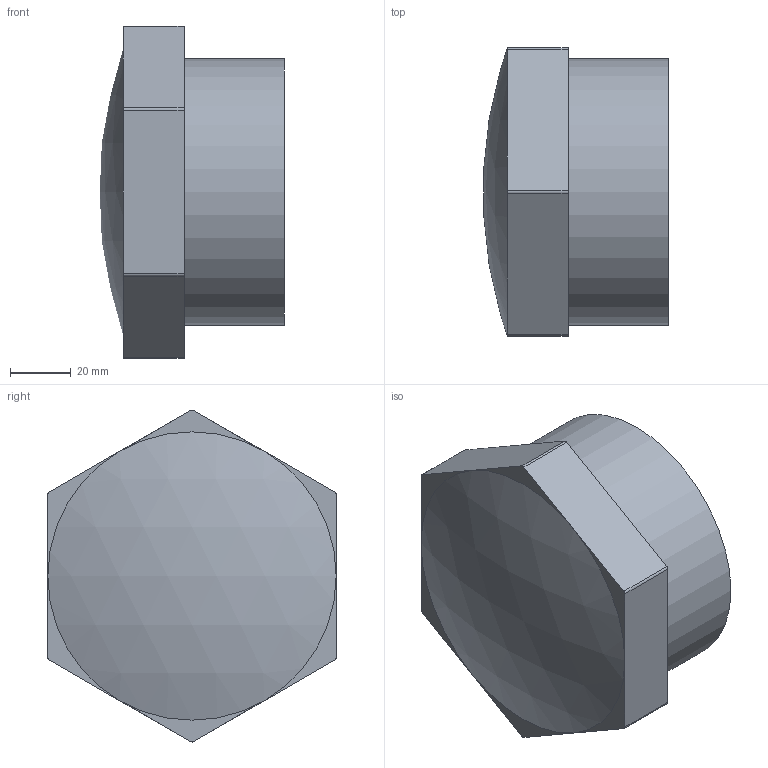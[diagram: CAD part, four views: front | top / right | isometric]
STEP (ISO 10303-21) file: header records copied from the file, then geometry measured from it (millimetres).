
FILE_DESCRIPTION(/* description */ ('PLASSON THREADED PLUG PVC 3"'),/* implementation_level */ '2;1');
FILE_NAME(/* name */ 'C:\Dropbox\KIMPROJECTS-Inventor\99-16-3568-Processing\PVC Catalog 2017\051701\051701030.ipt.stp',/* time_stamp */ '2017-12-07T16:01:41+02:00',/* author */ ('KIM'),/* organization */ (''),/* preprocessor_version */ 'ST-DEVELOPER v15.6',/* originating_system */ 'Autodesk Inventor 2015',/* authorisation */ '');
FILE_SCHEMA (('AUTOMOTIVE_DESIGN { 1 0 10303 214 3 1 1 }'));
Length unit declared in the file: millimetre
Products named in the file (1): 051701030
Bounding box: 60.78 x 95 x 109.4 mm (x, y, z)
Volume: 209992.5 mm3; surface area: 41016.3 mm2
Topology: 1 solids, 1 shells, 24 faces, 54 edges, 34 vertices
Faces by surface type: plane 14, cylinder 8, sphere 2
Full cylindrical faces by diameter (mm): 70.307 x1, 87.884 x1
Entity records: 686 total; most frequent: DIRECTION 124, CARTESIAN_POINT 111, ORIENTED_EDGE 104, EDGE_CURVE 52, AXIS2_PLACEMENT_3D 47, VERTEX_POINT 34, LINE 30, VECTOR 30
